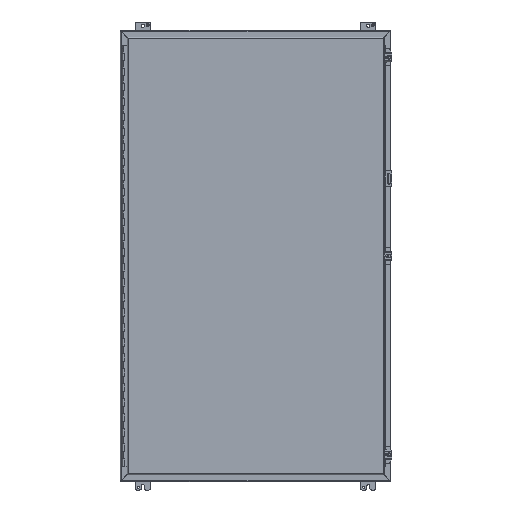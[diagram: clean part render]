
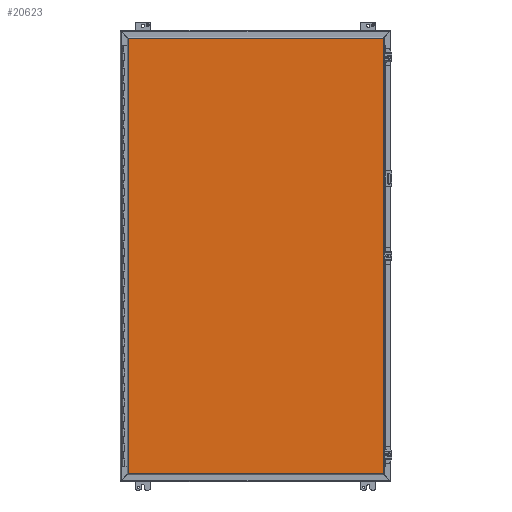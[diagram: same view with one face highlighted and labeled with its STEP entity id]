
A CAD part, front view. The second image highlights one B-rep face of the part: STEP entity #20623.
In plain terms, the highlighted planar face has unit normal (0, -1, 0).
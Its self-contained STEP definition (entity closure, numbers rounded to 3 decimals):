
#1210=LINE('',#31442,#3228);
#1211=LINE('',#31445,#3229);
#1212=LINE('',#31447,#3230);
#1213=LINE('',#31449,#3231);
#3228=VECTOR('',#24356,1000.);
#3229=VECTOR('',#24357,1000.);
#3230=VECTOR('',#24358,1000.);
#3231=VECTOR('',#24359,1000.);
#6450=ORIENTED_EDGE('',*,*,#12026,.T.);
#6451=ORIENTED_EDGE('',*,*,#12027,.T.);
#6452=ORIENTED_EDGE('',*,*,#12028,.T.);
#6453=ORIENTED_EDGE('',*,*,#12029,.T.);
#12026=EDGE_CURVE('',#14897,#14898,#1210,.T.);
#12027=EDGE_CURVE('',#14898,#14899,#1211,.T.);
#12028=EDGE_CURVE('',#14899,#14900,#1212,.T.);
#12029=EDGE_CURVE('',#14900,#14897,#1213,.T.);
#14897=VERTEX_POINT('',#31443);
#14898=VERTEX_POINT('',#31444);
#14899=VERTEX_POINT('',#31446);
#14900=VERTEX_POINT('',#31448);
#17397=EDGE_LOOP('',(#6450,#6451,#6452,#6453));
#18657=FACE_BOUND('',#17397,.T.);
#19819=PLANE('',#22015);
#20623=ADVANCED_FACE('',(#18657),#19819,.T.);
#22015=AXIS2_PLACEMENT_3D('',#31441,#24354,#24355);
#24354=DIRECTION('',(0.,-1.,0.));
#24355=DIRECTION('',(0.,0.,-1.));
#24356=DIRECTION('',(0.,0.,-1.));
#24357=DIRECTION('',(1.,0.,0.));
#24358=DIRECTION('',(0.,0.,1.));
#24359=DIRECTION('',(-1.,0.,0.));
#31441=CARTESIAN_POINT('',(-431.444,0.,-736.46));
#31442=CARTESIAN_POINT('',(-431.444,0.,736.46));
#31443=CARTESIAN_POINT('',(-431.444,0.,736.46));
#31444=CARTESIAN_POINT('',(-431.444,0.,-736.46));
#31445=CARTESIAN_POINT('',(-431.444,0.,-736.46));
#31446=CARTESIAN_POINT('',(431.444,0.,-736.46));
#31447=CARTESIAN_POINT('',(431.444,0.,-736.46));
#31448=CARTESIAN_POINT('',(431.444,0.,736.46));
#31449=CARTESIAN_POINT('',(431.444,0.,736.46));
